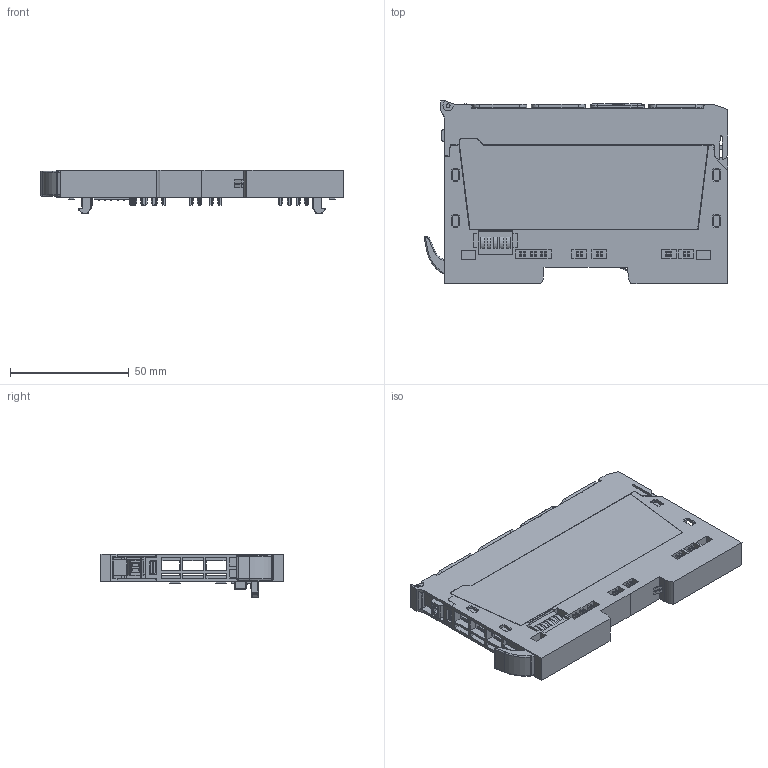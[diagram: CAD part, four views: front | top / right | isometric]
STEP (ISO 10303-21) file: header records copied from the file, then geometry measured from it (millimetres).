
FILE_DESCRIPTION(('CATIA V5R19 STEP'),'2;1');
FILE_NAME('\\srvde068\Desktop\w011128\Gordon Brandlable GE\RT-7631_UR20-PF-I.stp','2015-08-11T06:53:02+00:00',('Weidmueller Interface'),('WI'),'CATIA Version 5 Release 20 SP 5 (IN-10)','CATIA V5 STEP AP214','none');
FILE_SCHEMA(('AUTOMOTIVE_DESIGN { 1 0 10303 214 1 1 1 1 }'));
Products named in the file (1): RT-7631_UR20-PF-I
Bounding box: 127.88 x 77.45 x 18.5 mm (x, y, z)
Volume: 57557.5 mm3; surface area: 71029.9 mm2
Topology: 12 solids, 16 shells, 3700 faces, 10343 edges, 6738 vertices
Faces by surface type: plane 2796, cylinder 552, bspline 187, cone 90, torus 31, sphere 24, revolution 16, extrusion 4
Entity records: 142611 total; most frequent: CARTESIAN_POINT 32497, ORIENTED_EDGE 20624, DIRECTION 13944, EDGE_CURVE 10312, VECTOR 8285, LINE 8281, VERTEX_POINT 6738, EDGE_LOOP 3942
